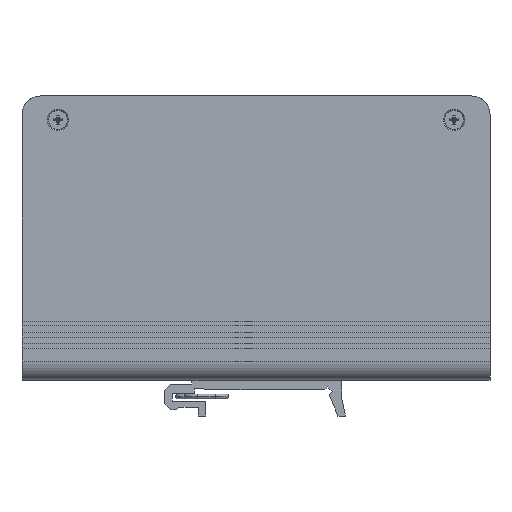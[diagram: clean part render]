
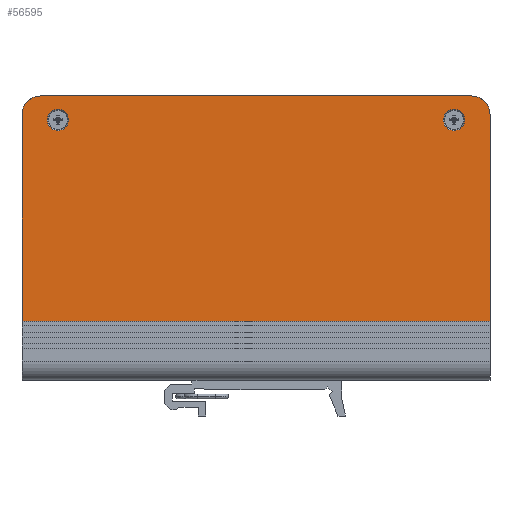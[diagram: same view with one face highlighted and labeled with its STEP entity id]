
A CAD part, front view. The second image highlights one B-rep face of the part: STEP entity #56595.
In plain terms, the highlighted planar face has unit normal (0, -1, 0).
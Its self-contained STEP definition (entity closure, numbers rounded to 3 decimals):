
#42827=DIRECTION('',(0.,0.,1.));
#42828=VECTOR('',#42827,55.2);
#42829=CARTESIAN_POINT('',(62.5,-19.7,-22.2));
#42830=LINE('',#42829,#42828);
#42847=DIRECTION('',(0.,0.,1.));
#42848=VECTOR('',#42847,55.2);
#42849=CARTESIAN_POINT('',(-62.5,-19.7,-22.2));
#42850=LINE('',#42849,#42848);
#42934=DIRECTION('',(-1.,0.,0.));
#42935=VECTOR('',#42934,115.);
#42936=CARTESIAN_POINT('',(57.5,-19.7,38.));
#42937=LINE('',#42936,#42935);
#42947=CARTESIAN_POINT('',(-57.5,-19.7,33.));
#42948=DIRECTION('',(0.,-1.,0.));
#42949=DIRECTION('',(0.,0.,1.));
#42950=AXIS2_PLACEMENT_3D('',#42947,#42948,#42949);
#42952=CARTESIAN_POINT('',(57.5,-19.7,33.));
#42953=DIRECTION('',(0.,-1.,0.));
#42954=DIRECTION('',(1.,0.,0.));
#42955=AXIS2_PLACEMENT_3D('',#42952,#42953,#42954);
#42957=DIRECTION('',(-1.,0.,0.));
#42958=VECTOR('',#42957,125.);
#42959=CARTESIAN_POINT('',(62.5,-19.7,-22.2));
#42960=LINE('',#42959,#42958);
#42961=CARTESIAN_POINT('',(-52.9,-19.7,31.6));
#42962=DIRECTION('',(0.,1.,0.));
#42963=DIRECTION('',(1.,0.,0.));
#42964=AXIS2_PLACEMENT_3D('',#42961,#42962,#42963);
#42966=CARTESIAN_POINT('',(-52.9,-19.7,31.6));
#42967=DIRECTION('',(0.,1.,0.));
#42968=DIRECTION('',(-1.,0.,0.));
#42969=AXIS2_PLACEMENT_3D('',#42966,#42967,#42968);
#42971=CARTESIAN_POINT('',(52.9,-19.7,31.6));
#42972=DIRECTION('',(0.,1.,0.));
#42973=DIRECTION('',(1.,0.,0.));
#42974=AXIS2_PLACEMENT_3D('',#42971,#42972,#42973);
#42976=CARTESIAN_POINT('',(52.9,-19.7,31.6));
#42977=DIRECTION('',(0.,1.,0.));
#42978=DIRECTION('',(-1.,0.,0.));
#42979=AXIS2_PLACEMENT_3D('',#42976,#42977,#42978);
#52289=CARTESIAN_POINT('',(62.5,-19.7,-22.2));
#52290=VERTEX_POINT('',#52289);
#52317=CARTESIAN_POINT('',(-62.5,-19.7,-22.2));
#52318=VERTEX_POINT('',#52317);
#52319=CARTESIAN_POINT('',(-57.5,-19.7,38.));
#52320=CARTESIAN_POINT('',(-62.5,-19.7,33.));
#52321=VERTEX_POINT('',#52319);
#52322=VERTEX_POINT('',#52320);
#52323=CARTESIAN_POINT('',(62.5,-19.7,33.));
#52324=CARTESIAN_POINT('',(57.5,-19.7,38.));
#52325=VERTEX_POINT('',#52323);
#52326=VERTEX_POINT('',#52324);
#52375=CARTESIAN_POINT('',(-50.05,-19.7,31.6));
#52376=CARTESIAN_POINT('',(-55.75,-19.7,31.6));
#52377=VERTEX_POINT('',#52375);
#52378=VERTEX_POINT('',#52376);
#52379=CARTESIAN_POINT('',(55.75,-19.7,31.6));
#52380=CARTESIAN_POINT('',(50.05,-19.7,31.6));
#52381=VERTEX_POINT('',#52379);
#52382=VERTEX_POINT('',#52380);
#56569=CARTESIAN_POINT('',(62.5,-19.7,-22.2));
#56570=DIRECTION('',(0.,-1.,0.));
#56571=DIRECTION('',(0.,0.,1.));
#56572=AXIS2_PLACEMENT_3D('',#56569,#56570,#56571);
#56573=PLANE('',#56572);
#56574=ORIENTED_EDGE('',*,*,#56515,.F.);
#56575=ORIENTED_EDGE('',*,*,#56536,.F.);
#56576=ORIENTED_EDGE('',*,*,#56556,.F.);
#56577=ORIENTED_EDGE('',*,*,#56421,.F.);
#56579=ORIENTED_EDGE('',*,*,#56578,.T.);
#56580=ORIENTED_EDGE('',*,*,#56464,.T.);
#56581=EDGE_LOOP('',(#56574,#56575,#56576,#56577,#56579,#56580));
#56582=FACE_OUTER_BOUND('',#56581,.F.);
#56584=ORIENTED_EDGE('',*,*,#56583,.F.);
#56586=ORIENTED_EDGE('',*,*,#56585,.F.);
#56587=EDGE_LOOP('',(#56584,#56586));
#56588=FACE_BOUND('',#56587,.F.);
#56590=ORIENTED_EDGE('',*,*,#56589,.F.);
#56592=ORIENTED_EDGE('',*,*,#56591,.F.);
#56593=EDGE_LOOP('',(#56590,#56592));
#56594=FACE_BOUND('',#56593,.F.);
#56595=ADVANCED_FACE('',(#56582,#56588,#56594),#56573,.T.);
#42951=CIRCLE('',#42950,5.);
#42956=CIRCLE('',#42955,5.);
#42965=CIRCLE('',#42964,2.85);
#42970=CIRCLE('',#42969,2.85);
#42975=CIRCLE('',#42974,2.85);
#42980=CIRCLE('',#42979,2.85);
#56421=EDGE_CURVE('',#52290,#52325,#42830,.T.);
#56464=EDGE_CURVE('',#52318,#52322,#42850,.T.);
#56515=EDGE_CURVE('',#52321,#52322,#42951,.T.);
#56536=EDGE_CURVE('',#52326,#52321,#42937,.T.);
#56556=EDGE_CURVE('',#52325,#52326,#42956,.T.);
#56578=EDGE_CURVE('',#52290,#52318,#42960,.T.);
#56583=EDGE_CURVE('',#52377,#52378,#42965,.T.);
#56585=EDGE_CURVE('',#52378,#52377,#42970,.T.);
#56589=EDGE_CURVE('',#52381,#52382,#42975,.T.);
#56591=EDGE_CURVE('',#52382,#52381,#42980,.T.);
